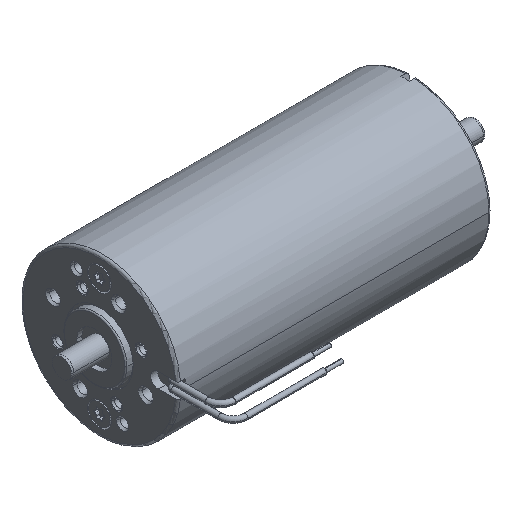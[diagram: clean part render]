
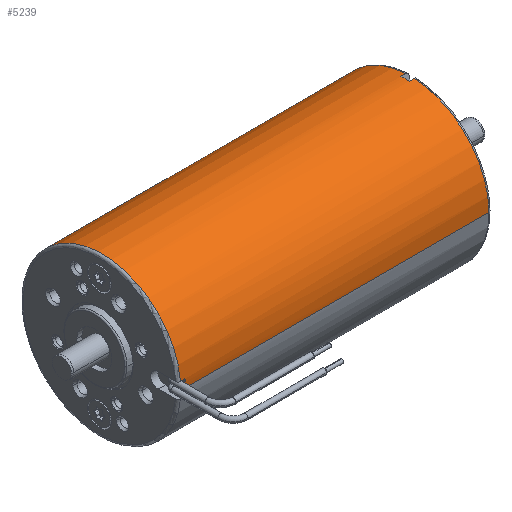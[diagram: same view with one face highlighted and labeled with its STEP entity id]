
A CAD part, isometric view. The second image highlights one B-rep face of the part: STEP entity #5239.
In plain terms, the highlighted cylindrical face has radius 31.5 mm (diameter 63 mm), a partial arc.
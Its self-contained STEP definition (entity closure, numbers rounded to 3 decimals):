
#1276=CARTESIAN_POINT('',(-124.,0.,0.));
#1277=DIRECTION('',(-1.,0.,0.));
#1278=DIRECTION('',(0.,-0.995,0.095));
#1279=AXIS2_PLACEMENT_3D('',#1276,#1277,#1278);
#1310=DIRECTION('',(-1.,0.,0.));
#1311=VECTOR('',#1310,123.);
#1312=CARTESIAN_POINT('',(-1.,31.5,0.));
#1313=LINE('',#1312,#1311);
#1314=DIRECTION('',(-1.,0.,0.));
#1315=VECTOR('',#1314,121.2);
#1316=CARTESIAN_POINT('',(-1.,-31.5,0.));
#1317=LINE('',#1316,#1315);
#1318=CARTESIAN_POINT('',(-3.,0.,0.));
#1319=DIRECTION('',(1.,0.,0.));
#1320=DIRECTION('',(0.,0.053,0.999));
#1321=AXIS2_PLACEMENT_3D('',#1318,#1319,#1320);
#1352=DIRECTION('',(1.,0.,0.));
#1353=VECTOR('',#1352,2.);
#1354=CARTESIAN_POINT('',(-3.,-1.658,31.456));
#1355=LINE('',#1354,#1353);
#2494=DIRECTION('',(1.,0.,0.));
#2495=VECTOR('',#2494,2.);
#2496=CARTESIAN_POINT('',(-3.,1.658,31.456));
#2497=LINE('',#2496,#2495);
#2517=CARTESIAN_POINT('',(-1.,0.,0.));
#2518=DIRECTION('',(-1.,0.,0.));
#2519=DIRECTION('',(0.,-1.,0.));
#2520=AXIS2_PLACEMENT_3D('',#2517,#2518,#2519);
#2531=CARTESIAN_POINT('',(-1.,0.,0.));
#2532=DIRECTION('',(-1.,0.,0.));
#2533=DIRECTION('',(0.,0.053,0.999));
#2534=AXIS2_PLACEMENT_3D('',#2531,#2532,#2533);
#2580=CARTESIAN_POINT('',(-122.2,0.,0.));
#2581=DIRECTION('',(1.,0.,0.));
#2582=DIRECTION('',(0.,-0.995,0.095));
#2583=AXIS2_PLACEMENT_3D('',#2580,#2581,#2582);
#2635=DIRECTION('',(1.,0.,0.));
#2636=VECTOR('',#2635,1.8);
#2637=CARTESIAN_POINT('',(-124.,-31.357,3.));
#2638=LINE('',#2637,#2636);
#2959=CARTESIAN_POINT('',(-122.2,-31.357,3.));
#2960=CARTESIAN_POINT('',(-122.2,-31.5,0.));
#2961=VERTEX_POINT('',#2959);
#2962=VERTEX_POINT('',#2960);
#3061=CARTESIAN_POINT('',(-3.,1.658,31.456));
#3062=CARTESIAN_POINT('',(-3.,-1.658,31.456));
#3063=VERTEX_POINT('',#3061);
#3064=VERTEX_POINT('',#3062);
#3065=CARTESIAN_POINT('',(-1.,-1.658,31.456));
#3066=VERTEX_POINT('',#3065);
#3067=CARTESIAN_POINT('',(-1.,1.658,31.456));
#3068=VERTEX_POINT('',#3067);
#3265=CARTESIAN_POINT('',(-124.,31.5,0.));
#3267=VERTEX_POINT('',#3265);
#3270=CARTESIAN_POINT('',(-124.,-31.357,3.));
#3271=VERTEX_POINT('',#3270);
#3273=CARTESIAN_POINT('',(-1.,31.5,0.));
#3274=VERTEX_POINT('',#3273);
#3275=CARTESIAN_POINT('',(-1.,-31.5,0.));
#3276=VERTEX_POINT('',#3275);
#5216=CARTESIAN_POINT('',(-133.45,0.,0.));
#5217=DIRECTION('',(1.,0.,0.));
#5218=DIRECTION('',(0.,-1.,0.));
#5219=AXIS2_PLACEMENT_3D('',#5216,#5217,#5218);
#5220=CYLINDRICAL_SURFACE('',#5219,31.5);
#5221=ORIENTED_EDGE('',*,*,#5190,.T.);
#5223=ORIENTED_EDGE('',*,*,#5222,.T.);
#5225=ORIENTED_EDGE('',*,*,#5224,.F.);
#5226=ORIENTED_EDGE('',*,*,#5176,.T.);
#5228=ORIENTED_EDGE('',*,*,#5227,.F.);
#5230=ORIENTED_EDGE('',*,*,#5229,.F.);
#5231=ORIENTED_EDGE('',*,*,#5148,.T.);
#5232=ORIENTED_EDGE('',*,*,#5169,.F.);
#5234=ORIENTED_EDGE('',*,*,#5233,.F.);
#5236=ORIENTED_EDGE('',*,*,#5235,.F.);
#5237=EDGE_LOOP('',(#5221,#5223,#5225,#5226,#5228,#5230,#5231,#5232,#5234,
#5236));
#5238=FACE_OUTER_BOUND('',#5237,.F.);
#5239=ADVANCED_FACE('',(#5238),#5220,.T.);
#1280=CIRCLE('',#1279,31.5);
#1322=CIRCLE('',#1321,31.5);
#2521=CIRCLE('',#2520,31.5);
#2535=CIRCLE('',#2534,31.5);
#2584=CIRCLE('',#2583,31.5);
#5148=EDGE_CURVE('',#3271,#3267,#1280,.T.);
#5169=EDGE_CURVE('',#3274,#3267,#1313,.T.);
#5176=EDGE_CURVE('',#3276,#2962,#1317,.T.);
#5190=EDGE_CURVE('',#3063,#3064,#1322,.T.);
#5222=EDGE_CURVE('',#3064,#3066,#1355,.T.);
#5224=EDGE_CURVE('',#3276,#3066,#2521,.T.);
#5227=EDGE_CURVE('',#2961,#2962,#2584,.T.);
#5229=EDGE_CURVE('',#3271,#2961,#2638,.T.);
#5233=EDGE_CURVE('',#3068,#3274,#2535,.T.);
#5235=EDGE_CURVE('',#3063,#3068,#2497,.T.);
